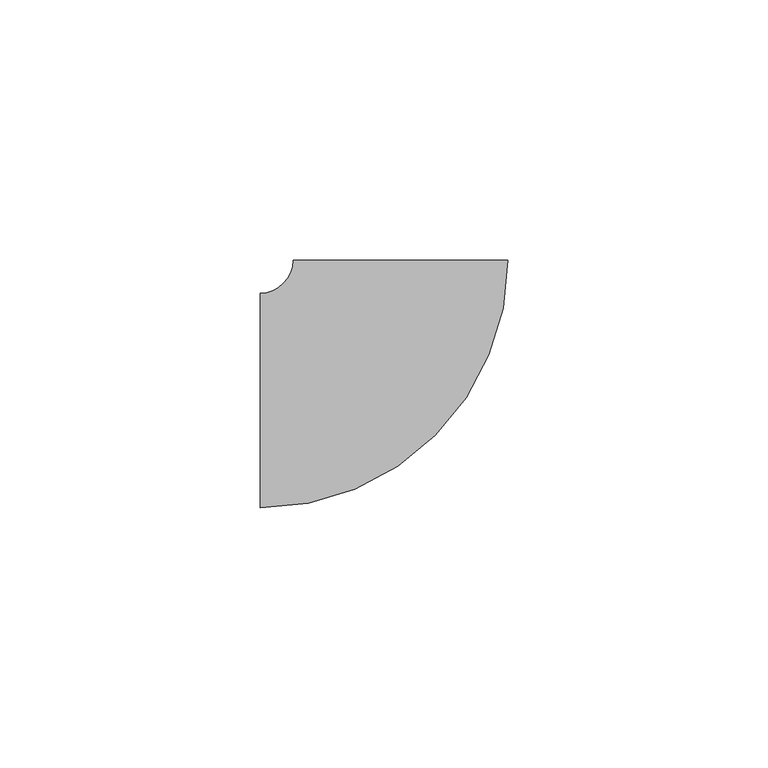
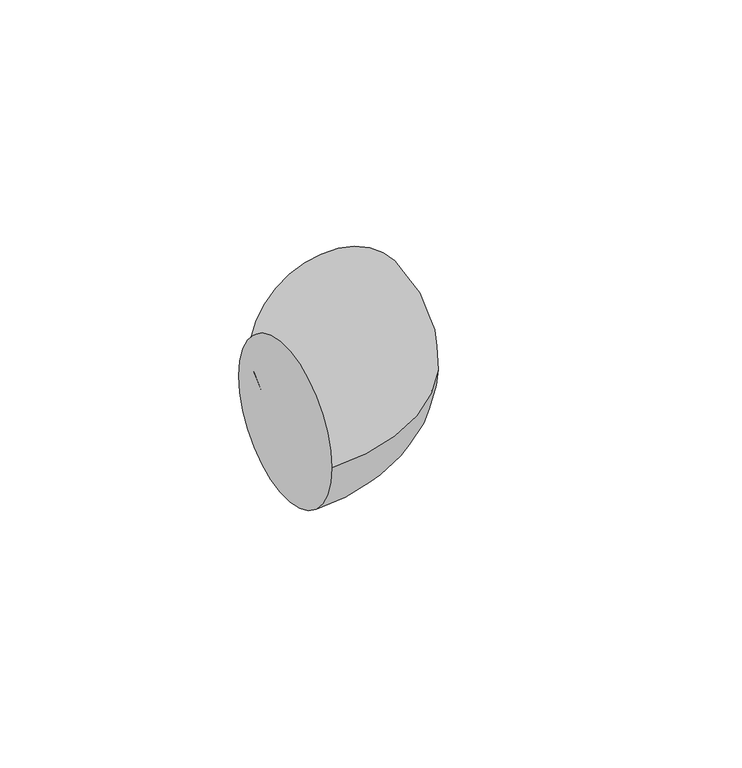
"""IFC4 building model written with IfcOpenShell, lengths in millimetres: pipe fitting geometry, M_Codo - Genérico : Estándar."""

from ifc_helpers import new_model, si_unit, point, frame, origin, place, context, project, spatial, circle_curve, ellipse_curve, trimmed, source, transform, mapped, element, save
from ifc_brep_helpers import plane_surface, revolved_surface, advanced_brep


def pipe_fitting_ce635796(model_context):
    return source(origin(), model_context, "Body", "AdvancedBrep", [
        advanced_brep(
        [(-26.9877531, -20.6375, 0.0), (-26.9877531, 20.6375, 0.0), (20.6372469, 26.9879466, 0.0), (-20.6377531, 26.9875595, 0.0)],
        [
            (0, 1, circle_curve(frame((-26.9877531, 0.0, 0.0), z_axis=(-1.0, 0.0, 0.0), x_axis=(0.0, 1.0, 0.0)), 20.6375)),
            (1, 0, circle_curve(frame((-26.9877531, 0.0, 0.0), z_axis=(-1.0, 0.0, 0.0), x_axis=(0.0, 1.0, 0.0)), 20.6375)),
            (2, 3, circle_curve(frame((-0.0002531, 26.9877531, 0.0), z_axis=(-9.37665359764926e-06, 0.9999999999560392, 0.0), x_axis=(-0.9999999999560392, -9.37665359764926e-06, 0.0)), 20.6375)),
            (3, 2, circle_curve(frame((-0.0002531, 26.9877531, 0.0), z_axis=(-9.37665359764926e-06, 0.9999999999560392, 0.0), x_axis=(-0.9999999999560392, -9.37665359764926e-06, 0.0)), 20.6375)),
            (3, 1, circle_curve(frame((-26.9877531, 26.9875, 0.0), z_axis=(0.0, 0.0, -1.0), x_axis=(0.0, -1.0, 0.0)), 6.35)),
            (0, 2, circle_curve(frame((-26.9877531, 26.9875, 0.0), z_axis=(0.0, 0.0, 1.0), x_axis=(0.0, -1.0, 0.0)), 47.625)),
        ],
        [
            plane_surface(frame((-26.9877531, 0.0, 0.0), z_axis=(-1.0, 0.0, 0.0), x_axis=(0.0, 0.0, 1.0))),
            plane_surface(frame((-0.0002531, 26.9877531, 0.0), z_axis=(-9.37665359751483e-06, 0.9999999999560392, 0.0), x_axis=(0.0, 0.0, 1.0))),
            revolved_surface(trimmed(ellipse_curve(frame((-26.9877531, 0.0, 0.0), z_axis=(-1.0, 0.0, 0.0), x_axis=(0.0, 1.0, 0.0)), 20.6375, 20.6375), [point((-26.9877531, -20.6375, 0.0))], [point((-26.9877531, 20.6375, 0.0))], True, "CARTESIAN"), (-26.9877531, 26.9875, 0.0), (0.0, 0.0, 1.0)),
            revolved_surface(trimmed(ellipse_curve(frame((-26.9877531, 0.0, 0.0), z_axis=(-1.0, 0.0, 0.0), x_axis=(0.0, 1.0, 0.0)), 20.6375, 20.6375), [point((-26.9877531, 20.6375, 0.0))], [point((-26.9877531, -20.6375, 0.0))], True, "CARTESIAN"), (-26.9877531, 26.9875, 0.0), (0.0, 0.0, 1.0)),
        ],
        [
            (0, [[1, 2]]),
            (1, [[3, 4]]),
            (2, [[5, -1, 6, -4]]),
            (3, [[-6, -2, -5, -3]]),
        ],
    ),
    ])


if __name__ == "__main__":
    model = new_model("IFC4")
    model_context = context("Model", 3, world=origin())
    ifc_project = project(units=[si_unit("LENGTHUNIT", "METRE", prefix="MILLI")], contexts=[model_context])
    site = spatial("IfcSite", under=ifc_project)
    building = spatial("IfcBuilding", under=site)
    placement = place(None, origin())
    pipe_fitting_shape = pipe_fitting_ce635796(model_context)
    element("IfcPipeFitting", 1, ObjectType="M_Codo - Genérico : Estándar", at=placement, inside=building, context=model_context, shape_type="MappedRepresentation", body=[
        mapped(pipe_fitting_shape, transform((0.0, 0.0, 0.0), x_axis=(1.0, 0.0, 0.0), y_axis=(0.0, 1.0, 0.0), z_axis=(0.0, 0.0, 1.0))),
    ])
    save(model, "model.ifc")
